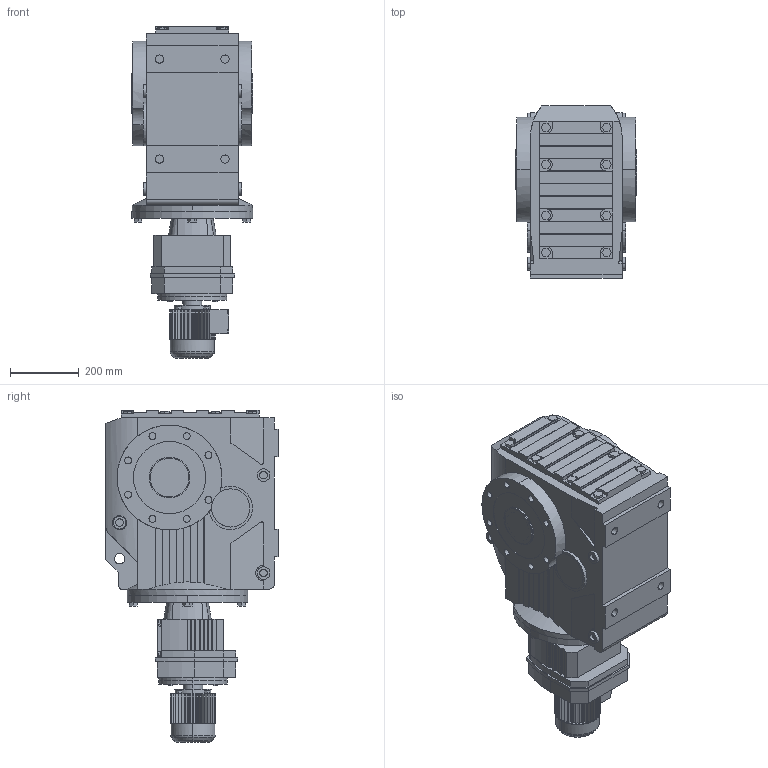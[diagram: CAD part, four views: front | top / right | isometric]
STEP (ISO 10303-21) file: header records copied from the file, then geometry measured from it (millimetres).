
FILE_DESCRIPTION(('Open CASCADE Model'),'2;1');
FILE_NAME('Open CASCADE Shape Model','2021-07-24T16:36:23',('Author'),( 'Open CASCADE'),'Open CASCADE STEP processor 6.3','Open CASCADE 6.3' ,'Unknown');
FILE_SCHEMA(('AUTOMOTIVE_DESIGN_CC2 { 1 2 10303 214 -1 1 5 4 }'));
Length unit declared in the file: millimetre
Products named in the file (5): 1_KA107R77DR63-A; KA37‵107_107.step; 萇儂_200-DR63-179-234-132-105.step; R_107_77.step; す瑩諾陑粣K_107.step
Assembly tree (4 placements, depth 2):
  1_KA107R77DR63-A
    KA37‵107_107.step
    萇儂_200-DR63-179-234-132-105.step
    R_107_77.step
    す瑩諾陑粣K_107.step
Bounding box: 351.75 x 500 x 963 mm (x, y, z)
Volume: 80967295.9 mm3; surface area: 2301356.5 mm2
Topology: 4 solids, 4 shells, 1091 faces, 2870 edges, 1878 vertices
Faces by surface type: plane 745, cylinder 328, cone 14, torus 4
Entity records: 80136 total; most frequent: CARTESIAN_POINT 25695, DIRECTION 9277, ORIENTED_EDGE 5740, PCURVE 5740, DEFINITIONAL_REPRESENTATION 5740, LINE 5162, VECTOR 5162, EDGE_CURVE 2870
